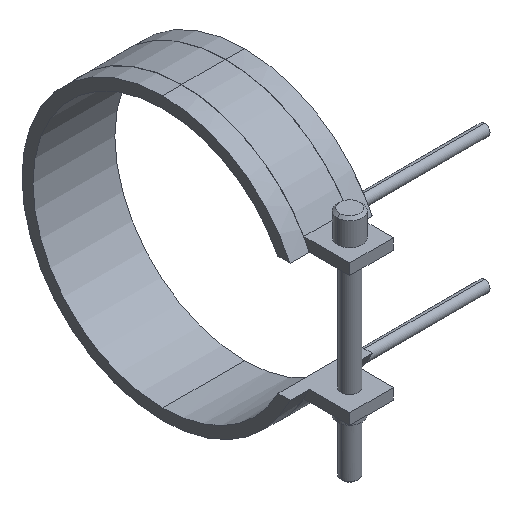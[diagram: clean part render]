
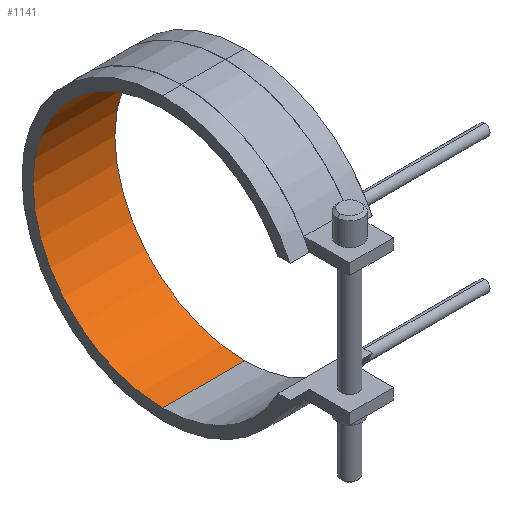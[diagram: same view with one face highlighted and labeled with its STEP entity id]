
A CAD part, isometric view. The second image highlights one B-rep face of the part: STEP entity #1141.
In plain terms, the highlighted cylindrical face has radius 47.5 mm (diameter 95 mm), a partial arc.
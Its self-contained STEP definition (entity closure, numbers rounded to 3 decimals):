
#822=CARTESIAN_POINT('Vertex',(-15.,0.,-47.5)) ;
#829=CARTESIAN_POINT('Vertex',(15.,0.,-47.5)) ;
#832=CARTESIAN_POINT('Line Origine',(15.,0.,-47.5)) ;
#850=CARTESIAN_POINT('Axis2P3D Location',(-15.,0.,0.)) ;
#854=CARTESIAN_POINT('Vertex',(-15.,0.,47.5)) ;
#911=CARTESIAN_POINT('Vertex',(15.,0.,47.5)) ;
#921=CARTESIAN_POINT('Line Origine',(15.,0.,47.5)) ;
#1012=CARTESIAN_POINT('Axis2P3D Location',(15.,0.,0.)) ;
#1130=CARTESIAN_POINT('Axis2P3D Location',(15.,0.,0.)) ;
#833=DIRECTION('Vector Direction',(1.,0.,0.)) ;
#851=DIRECTION('Axis2P3D Direction',(1.,0.,0.)) ;
#922=DIRECTION('Vector Direction',(1.,0.,0.)) ;
#1013=DIRECTION('Axis2P3D Direction',(1.,0.,0.)) ;
#1131=DIRECTION('Axis2P3D Direction',(1.,0.,-0.)) ;
#1132=DIRECTION('Axis2P3D XDirection',(0.,0.,-1.)) ;
#852=AXIS2_PLACEMENT_3D('Circle Axis2P3D',#850,#851,$) ;
#1014=AXIS2_PLACEMENT_3D('Circle Axis2P3D',#1012,#1013,$) ;
#1133=AXIS2_PLACEMENT_3D('Cylinder Axis2P3D',#1130,#1131,#1132) ;
#1136=ORIENTED_EDGE('',*,*,#1016,.T.) ;
#1137=ORIENTED_EDGE('',*,*,#925,.T.) ;
#1138=ORIENTED_EDGE('',*,*,#856,.F.) ;
#1139=ORIENTED_EDGE('',*,*,#836,.T.) ;
#834=VECTOR('Line Direction',#833,1.) ;
#923=VECTOR('Line Direction',#922,1.) ;
#1141=ADVANCED_FACE('14095030',(#1140),#1134,.F.) ;
#853=CIRCLE('generated circle',#852,47.5) ;
#1015=CIRCLE('generated circle',#1014,47.5) ;
#1134=CYLINDRICAL_SURFACE('generated cylinder',#1133,47.5) ;
#836=EDGE_CURVE('',#823,#830,#835,.T.) ;
#856=EDGE_CURVE('',#823,#855,#853,.T.) ;
#925=EDGE_CURVE('',#912,#855,#924,.F.) ;
#1016=EDGE_CURVE('',#830,#912,#1015,.T.) ;
#1135=EDGE_LOOP('',(#1136,#1137,#1138,#1139)) ;
#1140=FACE_OUTER_BOUND('',#1135,.T.) ;
#835=LINE('Line',#832,#834) ;
#924=LINE('Line',#921,#923) ;
#823=VERTEX_POINT('',#822) ;
#830=VERTEX_POINT('',#829) ;
#855=VERTEX_POINT('',#854) ;
#912=VERTEX_POINT('',#911) ;
